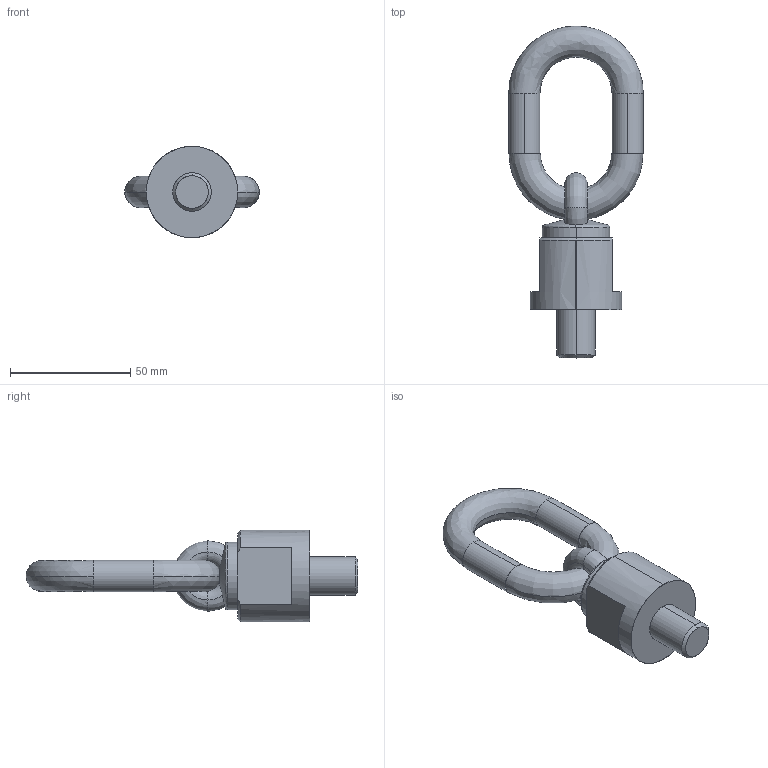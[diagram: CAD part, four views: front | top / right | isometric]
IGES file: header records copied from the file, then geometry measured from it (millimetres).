
Start section: START RECORD GO HERE.
Global section: file name: C800X0101420.igs; native system: DASSAULT SYSTEMES CATIA V5 R20 - www.3ds.com; preprocessor: CATIA Version 5 Release 20 ; author: Utente; organization: NB04-ASUS; date: 20200412.223022; units: millimetre
Bounding box: 56 x 138 x 38 mm (x, y, z)
Surface area: 15315.1 mm2 (no closed solid volume)
Topology: 0 solids, 0 shells, 48 faces, 242 edges, 242 vertices
Faces by surface type: revolution 35, extrusion 13
